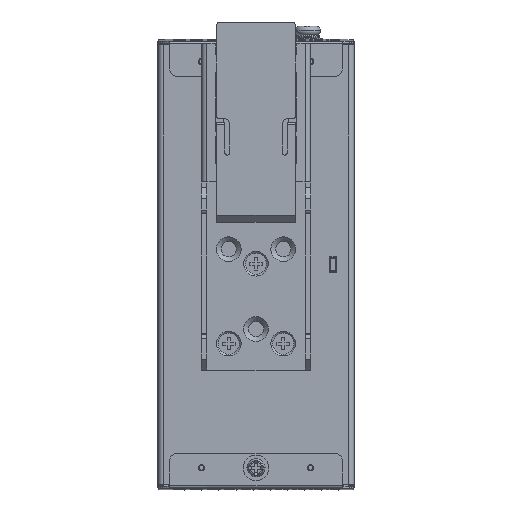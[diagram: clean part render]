
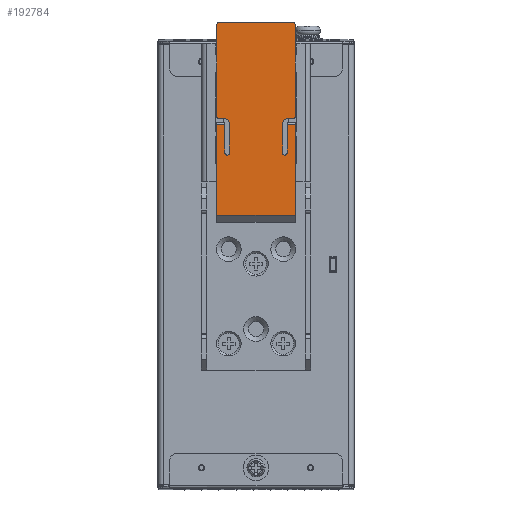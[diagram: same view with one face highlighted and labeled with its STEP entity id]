
A CAD part, left-side view. The second image highlights one B-rep face of the part: STEP entity #192784.
In plain terms, the highlighted planar face has unit normal (-1, 0, 0).
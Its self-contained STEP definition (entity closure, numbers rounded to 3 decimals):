
#192179=CARTESIAN_POINT('',(-64.2,19.65,38.78));
#192180=VERTEX_POINT('',#192179);
#192187=CARTESIAN_POINT('',(-64.2,19.65,30.73));
#192188=VERTEX_POINT('',#192187);
#192189=CARTESIAN_POINT('',(-64.2,19.65,30.73));
#192190=DIRECTION('',(0.,0.,1.));
#192191=VECTOR('',#192190,8.05);
#192192=LINE('',#192189,#192191);
#192193=EDGE_CURVE('',#192188,#192180,#192192,.T.);
#192209=CARTESIAN_POINT('',(-64.2,18.45,30.73));
#192210=VERTEX_POINT('',#192209);
#192211=CARTESIAN_POINT('',(-64.2,19.05,30.73));
#192212=DIRECTION('',(-1.,0.,0.));
#192213=DIRECTION('',(0.,0.,1.));
#192214=AXIS2_PLACEMENT_3D('',#192211,#192212,#192213);
#192215=CIRCLE('',#192214,0.6);
#192216=EDGE_CURVE('',#192188,#192210,#192215,.T.);
#192298=CARTESIAN_POINT('',(-64.2,18.45,38.58));
#192299=VERTEX_POINT('',#192298);
#192300=CARTESIAN_POINT('',(-64.2,18.45,30.73));
#192301=DIRECTION('',(-0.,-0.,1.));
#192302=VECTOR('',#192301,7.85);
#192303=LINE('',#192300,#192302);
#192304=EDGE_CURVE('',#192210,#192299,#192303,.T.);
#192422=CARTESIAN_POINT('',(-64.2,16.15,38.58));
#192423=VERTEX_POINT('',#192422);
#192431=CARTESIAN_POINT('',(-64.2,16.15,13.569));
#192432=VERTEX_POINT('',#192431);
#192433=CARTESIAN_POINT('',(-64.2,16.15,13.569));
#192434=DIRECTION('',(0.,0.,1.));
#192435=VECTOR('',#192434,25.011);
#192436=LINE('',#192433,#192435);
#192437=EDGE_CURVE('',#192432,#192423,#192436,.T.);
#192622=CARTESIAN_POINT('',(-64.2,16.15,38.58));
#192623=DIRECTION('',(-0.,1.,-0.));
#192624=VECTOR('',#192623,2.3);
#192625=LINE('',#192622,#192624);
#192626=EDGE_CURVE('',#192423,#192299,#192625,.T.);
#192631=CARTESIAN_POINT('',(-64.2,12.75,15.863));
#192632=DIRECTION('',(1.,0.,0.));
#192633=DIRECTION('',(0.,0.,1.));
#192634=AXIS2_PLACEMENT_3D('',#192631,#192632,#192633);
#192635=PLANE('',#192634);
#192636=CARTESIAN_POINT('',(-64.2,35.55,38.58));
#192637=VERTEX_POINT('',#192636);
#192638=CARTESIAN_POINT('',(-64.2,37.85,38.58));
#192639=VERTEX_POINT('',#192638);
#192640=CARTESIAN_POINT('',(-64.2,35.55,38.58));
#192641=DIRECTION('',(-0.,1.,-0.));
#192642=VECTOR('',#192641,2.3);
#192643=LINE('',#192640,#192642);
#192644=EDGE_CURVE('',#192637,#192639,#192643,.T.);
#192645=ORIENTED_EDGE('',*,*,#192644,.T.);
#192646=CARTESIAN_POINT('',(-64.2,37.85,13.569));
#192647=VERTEX_POINT('',#192646);
#192648=CARTESIAN_POINT('',(-64.2,37.85,38.58));
#192649=DIRECTION('',(-0.,-0.,-1.));
#192650=VECTOR('',#192649,25.011);
#192651=LINE('',#192648,#192650);
#192652=EDGE_CURVE('',#192639,#192647,#192651,.T.);
#192653=ORIENTED_EDGE('',*,*,#192652,.T.);
#192654=CARTESIAN_POINT('',(-64.2,16.15,13.569));
#192655=DIRECTION('',(-0.,1.,-0.));
#192656=VECTOR('',#192655,21.7);
#192657=LINE('',#192654,#192656);
#192658=EDGE_CURVE('',#192432,#192647,#192657,.T.);
#192659=ORIENTED_EDGE('',*,*,#192658,.F.);
#192660=ORIENTED_EDGE('',*,*,#192437,.T.);
#192661=ORIENTED_EDGE('',*,*,#192626,.T.);
#192662=ORIENTED_EDGE('',*,*,#192304,.F.);
#192663=ORIENTED_EDGE('',*,*,#192216,.F.);
#192664=ORIENTED_EDGE('',*,*,#192193,.T.);
#192665=CARTESIAN_POINT('',(-64.2,18.15,40.28));
#192666=VERTEX_POINT('',#192665);
#192667=CARTESIAN_POINT('',(-64.2,18.15,38.78));
#192668=DIRECTION('',(-1.,-0.,-0.));
#192669=DIRECTION('',(0.,0.,-1.));
#192670=AXIS2_PLACEMENT_3D('',#192667,#192668,#192669);
#192671=CIRCLE('',#192670,1.5);
#192672=EDGE_CURVE('',#192666,#192180,#192671,.T.);
#192673=ORIENTED_EDGE('',*,*,#192672,.F.);
#192674=CARTESIAN_POINT('',(-64.2,16.65,40.28));
#192675=VERTEX_POINT('',#192674);
#192676=CARTESIAN_POINT('',(-64.2,16.65,40.28));
#192677=DIRECTION('',(-0.,1.,-0.));
#192678=VECTOR('',#192677,1.5);
#192679=LINE('',#192676,#192678);
#192680=EDGE_CURVE('',#192675,#192666,#192679,.T.);
#192681=ORIENTED_EDGE('',*,*,#192680,.F.);
#192682=CARTESIAN_POINT('',(-64.2,16.15,40.78));
#192683=VERTEX_POINT('',#192682);
#192684=CARTESIAN_POINT('',(-64.2,16.65,40.78));
#192685=DIRECTION('',(1.,0.,0.));
#192686=DIRECTION('',(0.,0.,-1.));
#192687=AXIS2_PLACEMENT_3D('',#192684,#192685,#192686);
#192688=CIRCLE('',#192687,0.5);
#192689=EDGE_CURVE('',#192683,#192675,#192688,.T.);
#192690=ORIENTED_EDGE('',*,*,#192689,.F.);
#192691=CARTESIAN_POINT('',(-64.2,16.15,65.8));
#192692=VERTEX_POINT('',#192691);
#192693=CARTESIAN_POINT('',(-64.2,16.15,65.8));
#192694=DIRECTION('',(-0.,-0.,-1.));
#192695=VECTOR('',#192694,25.02);
#192696=LINE('',#192693,#192695);
#192697=EDGE_CURVE('',#192692,#192683,#192696,.T.);
#192698=ORIENTED_EDGE('',*,*,#192697,.F.);
#192699=CARTESIAN_POINT('',(-64.2,17.15,66.8));
#192700=VERTEX_POINT('',#192699);
#192701=CARTESIAN_POINT('',(-64.2,17.15,65.8));
#192702=DIRECTION('',(1.,-0.,-0.));
#192703=DIRECTION('',(0.,0.,1.));
#192704=AXIS2_PLACEMENT_3D('',#192701,#192702,#192703);
#192705=CIRCLE('',#192704,1.);
#192706=EDGE_CURVE('',#192700,#192692,#192705,.T.);
#192707=ORIENTED_EDGE('',*,*,#192706,.F.);
#192708=CARTESIAN_POINT('',(-64.2,36.85,66.8));
#192709=VERTEX_POINT('',#192708);
#192710=CARTESIAN_POINT('',(-64.2,36.85,66.8));
#192711=DIRECTION('',(-0.,-1.,-0.));
#192712=VECTOR('',#192711,19.7);
#192713=LINE('',#192710,#192712);
#192714=EDGE_CURVE('',#192709,#192700,#192713,.T.);
#192715=ORIENTED_EDGE('',*,*,#192714,.F.);
#192716=CARTESIAN_POINT('',(-64.2,37.85,65.8));
#192717=VERTEX_POINT('',#192716);
#192718=CARTESIAN_POINT('',(-64.2,36.85,65.8));
#192719=DIRECTION('',(1.,-0.,-0.));
#192720=DIRECTION('',(0.,0.,1.));
#192721=AXIS2_PLACEMENT_3D('',#192718,#192719,#192720);
#192722=CIRCLE('',#192721,1.);
#192723=EDGE_CURVE('',#192717,#192709,#192722,.T.);
#192724=ORIENTED_EDGE('',*,*,#192723,.F.);
#192725=CARTESIAN_POINT('',(-64.2,37.85,40.78));
#192726=VERTEX_POINT('',#192725);
#192727=CARTESIAN_POINT('',(-64.2,37.85,40.78));
#192728=DIRECTION('',(-0.,-0.,1.));
#192729=VECTOR('',#192728,25.02);
#192730=LINE('',#192727,#192729);
#192731=EDGE_CURVE('',#192726,#192717,#192730,.T.);
#192732=ORIENTED_EDGE('',*,*,#192731,.F.);
#192733=CARTESIAN_POINT('',(-64.2,37.35,40.28));
#192734=VERTEX_POINT('',#192733);
#192735=CARTESIAN_POINT('',(-64.2,37.35,40.78));
#192736=DIRECTION('',(1.,-0.,-0.));
#192737=DIRECTION('',(0.,0.,1.));
#192738=AXIS2_PLACEMENT_3D('',#192735,#192736,#192737);
#192739=CIRCLE('',#192738,0.5);
#192740=EDGE_CURVE('',#192734,#192726,#192739,.T.);
#192741=ORIENTED_EDGE('',*,*,#192740,.F.);
#192742=CARTESIAN_POINT('',(-64.2,35.85,40.28));
#192743=VERTEX_POINT('',#192742);
#192744=CARTESIAN_POINT('',(-64.2,35.85,40.28));
#192745=DIRECTION('',(-0.,1.,-0.));
#192746=VECTOR('',#192745,1.5);
#192747=LINE('',#192744,#192746);
#192748=EDGE_CURVE('',#192743,#192734,#192747,.T.);
#192749=ORIENTED_EDGE('',*,*,#192748,.F.);
#192750=CARTESIAN_POINT('',(-64.2,34.35,38.78));
#192751=VERTEX_POINT('',#192750);
#192752=CARTESIAN_POINT('',(-64.2,35.85,38.78));
#192753=DIRECTION('',(-1.,0.,0.));
#192754=DIRECTION('',(0.,0.,1.));
#192755=AXIS2_PLACEMENT_3D('',#192752,#192753,#192754);
#192756=CIRCLE('',#192755,1.5);
#192757=EDGE_CURVE('',#192751,#192743,#192756,.T.);
#192758=ORIENTED_EDGE('',*,*,#192757,.F.);
#192759=CARTESIAN_POINT('',(-64.2,34.35,30.73));
#192760=VERTEX_POINT('',#192759);
#192761=CARTESIAN_POINT('',(-64.2,34.35,38.78));
#192762=DIRECTION('',(-0.,-0.,-1.));
#192763=VECTOR('',#192762,8.05);
#192764=LINE('',#192761,#192763);
#192765=EDGE_CURVE('',#192751,#192760,#192764,.T.);
#192766=ORIENTED_EDGE('',*,*,#192765,.T.);
#192767=CARTESIAN_POINT('',(-64.2,35.55,30.73));
#192768=VERTEX_POINT('',#192767);
#192769=CARTESIAN_POINT('',(-64.2,34.95,30.73));
#192770=DIRECTION('',(-1.,0.,0.));
#192771=DIRECTION('',(0.,0.,1.));
#192772=AXIS2_PLACEMENT_3D('',#192769,#192770,#192771);
#192773=CIRCLE('',#192772,0.6);
#192774=EDGE_CURVE('',#192768,#192760,#192773,.T.);
#192775=ORIENTED_EDGE('',*,*,#192774,.F.);
#192776=CARTESIAN_POINT('',(-64.2,35.55,38.58));
#192777=DIRECTION('',(-0.,-0.,-1.));
#192778=VECTOR('',#192777,7.85);
#192779=LINE('',#192776,#192778);
#192780=EDGE_CURVE('',#192637,#192768,#192779,.T.);
#192781=ORIENTED_EDGE('',*,*,#192780,.F.);
#192782=EDGE_LOOP('',(#192645,#192653,#192659,#192660,#192661,#192662,#192663,#192664,#192673,#192681,#192690,#192698,#192707,#192715,#192724,#192732,#192741,#192749,#192758,#192766,#192775,#192781));
#192783=FACE_BOUND('',#192782,.T.);
#192784=ADVANCED_FACE('',(#192783),#192635,.F.);
